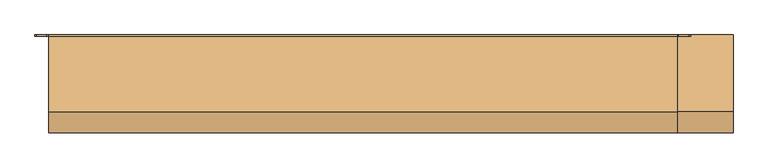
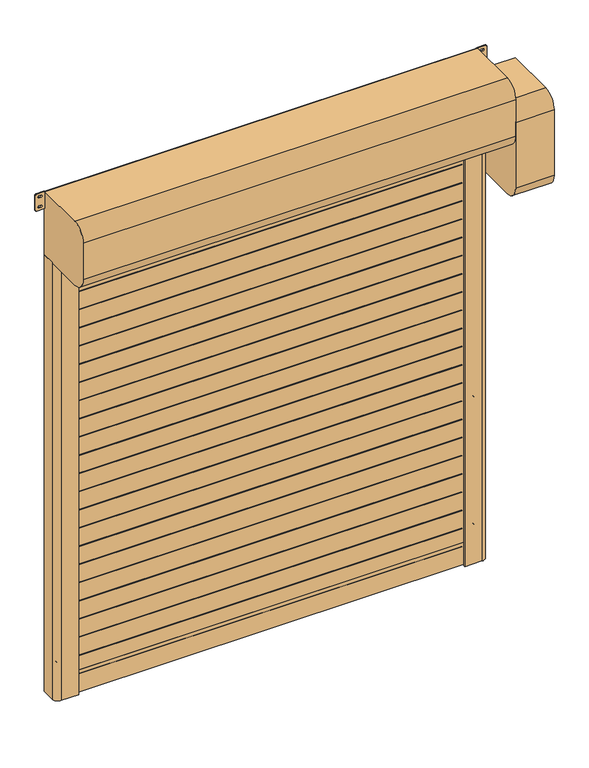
"""IFC4 building model written with IfcOpenShell, lengths in millimetres: door geometry, DO_WPB_Dynamicroll Frigo_Air_BMP : Dynamicroll Frigo1."""

from ifc_helpers import new_model, si_unit, point, frame, frame_2d, origin, origin_with_axes, place, context, project, spatial, polyline, circle_curve, trimmed, segment, composite_curve, outline, extrude, source, transform, mapped, element, save


def door_a66aba2e(model_context):
    return source(origin(), model_context, "Body", "SweptSolid", [
        extrude(outline(polyline([(-1000.0, -81.5), (-1000.0, -59.5), (1000.0, -59.5), (1000.0, -81.5), (-1000.0, -81.5)])), frame((0.0, 0.0, 2599.0), z_axis=(0.0, 0.0, 1.0), x_axis=(1.0, 0.0, 0.0)), (0.0, 0.0, 1.0), 2.0),
        extrude(outline(polyline([(-1000.0, -81.5), (-1000.0, -59.5), (1000.0, -59.5), (1000.0, -81.5), (-1000.0, -81.5)])), frame((0.0, 0.0, 2499.0), z_axis=(0.0, 0.0, 1.0), x_axis=(1.0, 0.0, 0.0)), (0.0, 0.0, 1.0), 2.0),
        extrude(outline(polyline([(-1000.0, -81.5), (-1000.0, -59.5), (1000.0, -59.5), (1000.0, -81.5), (-1000.0, -81.5)])), frame((0.0, 0.0, 2399.0), z_axis=(0.0, 0.0, 1.0), x_axis=(1.0, 0.0, 0.0)), (0.0, 0.0, 1.0), 2.0),
        extrude(outline(polyline([(-1000.0, -81.5), (-1000.0, -59.5), (1000.0, -59.5), (1000.0, -81.5), (-1000.0, -81.5)])), frame((0.0, 0.0, 2299.0), z_axis=(0.0, 0.0, 1.0), x_axis=(1.0, 0.0, 0.0)), (0.0, 0.0, 1.0), 2.0),
        extrude(outline(polyline([(-1000.0, -81.5), (-1000.0, -59.5), (1000.0, -59.5), (1000.0, -81.5), (-1000.0, -81.5)])), frame((0.0, 0.0, 2199.0), z_axis=(0.0, 0.0, 1.0), x_axis=(1.0, 0.0, 0.0)), (0.0, 0.0, 1.0), 2.0),
        extrude(outline(polyline([(-1000.0, -81.5), (-1000.0, -59.5), (1000.0, -59.5), (1000.0, -81.5), (-1000.0, -81.5)])), frame((0.0, 0.0, 2099.0), z_axis=(0.0, 0.0, 1.0), x_axis=(1.0, 0.0, 0.0)), (0.0, 0.0, 1.0), 2.0),
        extrude(outline(polyline([(-1000.0, -81.5), (-1000.0, -59.5), (1000.0, -59.5), (1000.0, -81.5), (-1000.0, -81.5)])), frame((0.0, 0.0, 1999.0), z_axis=(0.0, 0.0, 1.0), x_axis=(1.0, 0.0, 0.0)), (0.0, 0.0, 1.0), 2.0),
        extrude(outline(polyline([(-1000.0, -81.5), (-1000.0, -59.5), (1000.0, -59.5), (1000.0, -81.5), (-1000.0, -81.5)])), frame((0.0, 0.0, 1899.0), z_axis=(0.0, 0.0, 1.0), x_axis=(1.0, 0.0, 0.0)), (0.0, 0.0, 1.0), 2.0),
        extrude(outline(polyline([(-1000.0, -81.5), (-1000.0, -59.5), (1000.0, -59.5), (1000.0, -81.5), (-1000.0, -81.5)])), frame((0.0, 0.0, 1799.0), z_axis=(0.0, 0.0, 1.0), x_axis=(1.0, 0.0, 0.0)), (0.0, 0.0, 1.0), 2.0),
        extrude(outline(polyline([(-1000.0, -81.5), (-1000.0, -59.5), (1000.0, -59.5), (1000.0, -81.5), (-1000.0, -81.5)])), frame((0.0, 0.0, 1699.0), z_axis=(0.0, 0.0, 1.0), x_axis=(1.0, 0.0, 0.0)), (0.0, 0.0, 1.0), 2.0),
        extrude(outline(polyline([(-1000.0, -81.5), (-1000.0, -59.5), (1000.0, -59.5), (1000.0, -81.5), (-1000.0, -81.5)])), frame((0.0, 0.0, 1599.0), z_axis=(0.0, 0.0, 1.0), x_axis=(1.0, 0.0, 0.0)), (0.0, 0.0, 1.0), 2.0),
        extrude(outline(polyline([(-1000.0, -81.5), (-1000.0, -59.5), (1000.0, -59.5), (1000.0, -81.5), (-1000.0, -81.5)])), frame((0.0, 0.0, 1499.0), z_axis=(0.0, 0.0, 1.0), x_axis=(1.0, 0.0, 0.0)), (0.0, 0.0, 1.0), 2.0),
        extrude(outline(polyline([(-1000.0, -81.5), (-1000.0, -59.5), (1000.0, -59.5), (1000.0, -81.5), (-1000.0, -81.5)])), frame((0.0, 0.0, 1399.0), z_axis=(0.0, 0.0, 1.0), x_axis=(1.0, 0.0, 0.0)), (0.0, 0.0, 1.0), 2.0),
        extrude(outline(polyline([(-1000.0, -81.5), (-1000.0, -59.5), (1000.0, -59.5), (1000.0, -81.5), (-1000.0, -81.5)])), frame((0.0, 0.0, 1299.0), z_axis=(0.0, 0.0, 1.0), x_axis=(1.0, 0.0, 0.0)), (0.0, 0.0, 1.0), 2.0),
        extrude(outline(polyline([(-1000.0, -81.5), (-1000.0, -59.5), (1000.0, -59.5), (1000.0, -81.5), (-1000.0, -81.5)])), frame((0.0, 0.0, 1199.0), z_axis=(0.0, 0.0, 1.0), x_axis=(1.0, 0.0, 0.0)), (0.0, 0.0, 1.0), 2.0),
        extrude(outline(polyline([(-1000.0, -81.5), (-1000.0, -59.5), (1000.0, -59.5), (1000.0, -81.5), (-1000.0, -81.5)])), frame((0.0, 0.0, 1099.0), z_axis=(0.0, 0.0, 1.0), x_axis=(1.0, 0.0, 0.0)), (0.0, 0.0, 1.0), 2.0),
        extrude(outline(polyline([(-1000.0, -81.5), (-1000.0, -59.5), (1000.0, -59.5), (1000.0, -81.5), (-1000.0, -81.5)])), frame((0.0, 0.0, 999.0), z_axis=(0.0, 0.0, 1.0), x_axis=(1.0, 0.0, 0.0)), (0.0, 0.0, 1.0), 2.0),
        extrude(outline(polyline([(-1000.0, -81.5), (-1000.0, -59.5), (1000.0, -59.5), (1000.0, -81.5), (-1000.0, -81.5)])), frame((0.0, 0.0, 899.0), z_axis=(0.0, 0.0, 1.0), x_axis=(1.0, 0.0, 0.0)), (0.0, 0.0, 1.0), 2.0),
        extrude(outline(polyline([(-1000.0, -81.5), (-1000.0, -59.5), (1000.0, -59.5), (1000.0, -81.5), (-1000.0, -81.5)])), frame((0.0, 0.0, 799.0), z_axis=(0.0, 0.0, 1.0), x_axis=(1.0, 0.0, 0.0)), (0.0, 0.0, 1.0), 2.0),
        extrude(outline(polyline([(-1000.0, -81.5), (-1000.0, -59.5), (1000.0, -59.5), (1000.0, -81.5), (-1000.0, -81.5)])), frame((0.0, 0.0, 699.0), z_axis=(0.0, 0.0, 1.0), x_axis=(1.0, 0.0, 0.0)), (0.0, 0.0, 1.0), 2.0),
        extrude(outline(polyline([(-1000.0, -81.5), (-1000.0, -59.5), (1000.0, -59.5), (1000.0, -81.5), (-1000.0, -81.5)])), frame((0.0, 0.0, 599.0), z_axis=(0.0, 0.0, 1.0), x_axis=(1.0, 0.0, 0.0)), (0.0, 0.0, 1.0), 2.0),
        extrude(outline(polyline([(-1000.0, -81.5), (-1000.0, -59.5), (1000.0, -59.5), (1000.0, -81.5), (-1000.0, -81.5)])), frame((0.0, 0.0, 499.0), z_axis=(0.0, 0.0, 1.0), x_axis=(1.0, 0.0, 0.0)), (0.0, 0.0, 1.0), 2.0),
        extrude(outline(polyline([(-1000.0, -81.5), (-1000.0, -59.5), (1000.0, -59.5), (1000.0, -81.5), (-1000.0, -81.5)])), frame((0.0, 0.0, 399.0), z_axis=(0.0, 0.0, 1.0), x_axis=(1.0, 0.0, 0.0)), (0.0, 0.0, 1.0), 2.0),
        extrude(outline(polyline([(-1000.0, -81.5), (-1000.0, -59.5), (1000.0, -59.5), (1000.0, -81.5), (-1000.0, -81.5)])), frame((0.0, 0.0, 299.0), z_axis=(0.0, 0.0, 1.0), x_axis=(1.0, 0.0, 0.0)), (0.0, 0.0, 1.0), 2.0),
        extrude(outline(polyline([(-1000.0, -81.5), (-1000.0, -59.5), (1000.0, -59.5), (1000.0, -81.5), (-1000.0, -81.5)])), frame((0.0, 0.0, 199.0), z_axis=(0.0, 0.0, 1.0), x_axis=(1.0, 0.0, 0.0)), (0.0, 0.0, 1.0), 2.0),
        extrude(outline(polyline([(-1000.0, -81.5), (-1000.0, -59.5), (1000.0, -59.5), (1000.0, -81.5), (-1000.0, -81.5)])), frame((0.0, 0.0, 99.0), z_axis=(0.0, 0.0, 1.0), x_axis=(1.0, 0.0, 0.0)), (0.0, 0.0, 1.0), 2.0),
        extrude(outline(composite_curve([segment(trimmed(circle_curve(frame_2d((1550.0, 1076.0)), 6.0), [point((1556.0, 1076.0))], [point((1544.0, 1076.0))], False, "CARTESIAN"), True, "CONTINUOUS"), segment(polyline([(1544.0, 1076.0), (1544.0, 1094.0)]), True, "CONTINUOUS"), segment(trimmed(circle_curve(frame_2d((1550.0, 1094.0)), 6.0), [point((1544.0, 1094.0))], [point((1556.0, 1094.0))], False, "CARTESIAN"), True, "CONTINUOUS"), segment(polyline([(1556.0, 1094.0), (1556.0, 1076.0)]), True, "CONTINUOUS")], self_intersect=False)), frame((0.0, -20.0, 0.0), z_axis=(0.0, 1.0, 0.0), x_axis=(0.0, 0.0, 1.0)), (0.0, 0.0, 1.0), 20.0),
        extrude(outline(composite_curve([segment(trimmed(circle_curve(frame_2d((850.0, 1076.0)), 6.0), [point((856.0, 1076.0))], [point((844.0, 1076.0))], False, "CARTESIAN"), True, "CONTINUOUS"), segment(polyline([(844.0, 1076.0), (844.0, 1094.0)]), True, "CONTINUOUS"), segment(trimmed(circle_curve(frame_2d((850.0, 1094.0)), 6.0), [point((844.0, 1094.0))], [point((856.0, 1094.0))], False, "CARTESIAN"), True, "CONTINUOUS"), segment(polyline([(856.0, 1094.0), (856.0, 1076.0)]), True, "CONTINUOUS")], self_intersect=False)), frame((0.0, -20.0, 0.0), z_axis=(0.0, 1.0, 0.0), x_axis=(0.0, 0.0, 1.0)), (0.0, 0.0, 1.0), 20.0),
        extrude(outline(composite_curve([segment(trimmed(circle_curve(frame_2d((2250.0, 1076.0)), 6.0), [point((2256.0, 1076.0))], [point((2244.0, 1076.0))], False, "CARTESIAN"), True, "CONTINUOUS"), segment(polyline([(2244.0, 1076.0), (2244.0, 1094.0)]), True, "CONTINUOUS"), segment(trimmed(circle_curve(frame_2d((2250.0, 1094.0)), 6.0), [point((2244.0, 1094.0))], [point((2256.0, 1094.0))], False, "CARTESIAN"), True, "CONTINUOUS"), segment(polyline([(2256.0, 1094.0), (2256.0, 1076.0)]), True, "CONTINUOUS")], self_intersect=False)), frame((0.0, -20.0, 0.0), z_axis=(0.0, 1.0, 0.0), x_axis=(0.0, 0.0, 1.0)), (0.0, 0.0, 1.0), 20.0),
        extrude(outline(composite_curve([segment(trimmed(circle_curve(frame_2d((150.0, 1076.0)), 6.0), [point((156.0, 1076.0))], [point((144.0, 1076.0))], False, "CARTESIAN"), True, "CONTINUOUS"), segment(polyline([(144.0, 1076.0), (144.0, 1094.0)]), True, "CONTINUOUS"), segment(trimmed(circle_curve(frame_2d((150.0, 1094.0)), 6.0), [point((144.0, 1094.0))], [point((156.0, 1094.0))], False, "CARTESIAN"), True, "CONTINUOUS"), segment(polyline([(156.0, 1094.0), (156.0, 1076.0)]), True, "CONTINUOUS")], self_intersect=False)), frame((0.0, -20.0, 0.0), z_axis=(0.0, 1.0, 0.0), x_axis=(0.0, 0.0, 1.0)), (0.0, 0.0, 1.0), 20.0),
        extrude(outline(composite_curve([segment(polyline([(1556.0, -1076.0), (1556.0, -1094.0)]), True, "CONTINUOUS"), segment(trimmed(circle_curve(frame_2d((1550.0, -1094.0)), 6.0), [point((1556.0, -1094.0))], [point((1544.0, -1094.0))], False, "CARTESIAN"), True, "CONTINUOUS"), segment(polyline([(1544.0, -1094.0), (1544.0, -1076.0)]), True, "CONTINUOUS"), segment(trimmed(circle_curve(frame_2d((1550.0, -1076.0)), 6.0), [point((1544.0, -1076.0))], [point((1556.0, -1076.0))], False, "CARTESIAN"), True, "CONTINUOUS")], self_intersect=False)), frame((0.0, -20.0, 0.0), z_axis=(0.0, 1.0, 0.0), x_axis=(0.0, 0.0, 1.0)), (0.0, 0.0, 1.0), 20.0),
        extrude(outline(composite_curve([segment(polyline([(856.0, -1076.0), (856.0, -1094.0)]), True, "CONTINUOUS"), segment(trimmed(circle_curve(frame_2d((850.0, -1094.0)), 6.0), [point((856.0, -1094.0))], [point((844.0, -1094.0))], False, "CARTESIAN"), True, "CONTINUOUS"), segment(polyline([(844.0, -1094.0), (844.0, -1076.0)]), True, "CONTINUOUS"), segment(trimmed(circle_curve(frame_2d((850.0, -1076.0)), 6.0), [point((844.0, -1076.0))], [point((856.0, -1076.0))], False, "CARTESIAN"), True, "CONTINUOUS")], self_intersect=False)), frame((0.0, -20.0, 0.0), z_axis=(0.0, 1.0, 0.0), x_axis=(0.0, 0.0, 1.0)), (0.0, 0.0, 1.0), 20.0),
        extrude(outline(composite_curve([segment(polyline([(2256.0, -1076.0), (2256.0, -1094.0)]), True, "CONTINUOUS"), segment(trimmed(circle_curve(frame_2d((2250.0, -1094.0)), 6.0), [point((2256.0, -1094.0))], [point((2244.0, -1094.0))], False, "CARTESIAN"), True, "CONTINUOUS"), segment(polyline([(2244.0, -1094.0), (2244.0, -1076.0)]), True, "CONTINUOUS"), segment(trimmed(circle_curve(frame_2d((2250.0, -1076.0)), 6.0), [point((2244.0, -1076.0))], [point((2256.0, -1076.0))], False, "CARTESIAN"), True, "CONTINUOUS")], self_intersect=False)), frame((0.0, -20.0, 0.0), z_axis=(0.0, 1.0, 0.0), x_axis=(0.0, 0.0, 1.0)), (0.0, 0.0, 1.0), 20.0),
        extrude(outline(composite_curve([segment(polyline([(156.0, -1076.0), (156.0, -1094.0)]), True, "CONTINUOUS"), segment(trimmed(circle_curve(frame_2d((150.0, -1094.0)), 6.0), [point((156.0, -1094.0))], [point((144.0, -1094.0))], False, "CARTESIAN"), True, "CONTINUOUS"), segment(polyline([(144.0, -1094.0), (144.0, -1076.0)]), True, "CONTINUOUS"), segment(trimmed(circle_curve(frame_2d((150.0, -1076.0)), 6.0), [point((144.0, -1076.0))], [point((156.0, -1076.0))], False, "CARTESIAN"), True, "CONTINUOUS")], self_intersect=False)), frame((0.0, -20.0, 0.0), z_axis=(0.0, 1.0, 0.0), x_axis=(0.0, 0.0, 1.0)), (0.0, 0.0, 1.0), 20.0),
        extrude(outline(polyline([(-1012.0, -61.5), (1012.0, -61.5), (1012.0, -79.5), (-1012.0, -79.5), (-1012.0, -61.5)])), frame((0.0, 0.0, 120.0), z_axis=(0.0, 0.0, 1.0), x_axis=(1.0, 0.0, 0.0)), (0.0, 0.0, 1.0), 2455.0),
        extrude(outline(polyline([(-1012.0, -59.5), (1012.0, -59.5), (1012.0, -81.5), (-1012.0, -81.5), (-1012.0, -59.5)])), origin_with_axes(), (0.0, 0.0, 1.0), 120.0),
        extrude(outline(composite_curve([segment(polyline([(-1125.0, 0.0), (-1015.0, 0.0), (-1015.0, -49.2857143), (-1035.0, -55.0), (-1000.0, -55.0), (-1000.0, -61.5), (-1020.0, -61.5), (-1020.0, -68.5), (-1000.0, -68.5), (-1000.0, -75.0), (-1035.0, -75.0), (-1035.0, -90.0), (-1005.0, -90.0), (-1005.0, -100.0), (-1095.0, -100.0)]), True, "CONTINUOUS"), segment(trimmed(circle_curve(frame_2d((-1095.0, -70.0)), 30.0), [point((-1095.0, -100.0))], [point((-1125.0, -70.0))], False, "CARTESIAN"), True, "CONTINUOUS"), segment(polyline([(-1125.0, -70.0), (-1125.0, 0.0)]), True, "CONTINUOUS")], self_intersect=False)), origin_with_axes(), (0.0, 0.0, 1.0), 2400.0),
        extrude(outline(composite_curve([segment(polyline([(1125.0, 0.0), (1125.0, -70.0)]), True, "CONTINUOUS"), segment(trimmed(circle_curve(frame_2d((1095.0, -70.0)), 30.0), [point((1125.0, -70.0))], [point((1095.0, -100.0))], False, "CARTESIAN"), True, "CONTINUOUS"), segment(polyline([(1095.0, -100.0), (1005.0, -100.0), (1005.0, -90.0), (1035.0, -90.0), (1035.0, -75.0), (1000.0, -75.0), (1000.0, -68.5), (1020.0, -68.5), (1020.0, -61.5), (1000.0, -61.5), (1000.0, -55.0), (1035.0, -55.0), (1015.0, -49.2857143), (1015.0, 0.0), (1125.0, 0.0)]), True, "CONTINUOUS")], self_intersect=False)), origin_with_axes(), (0.0, 0.0, 1.0), 2400.0),
        extrude(outline(composite_curve([segment(trimmed(circle_curve(frame_2d((-5.0, 2405.0)), 5.0), [point((0.0, 2405.0))], [point((-5.0, 2400.0))], False, "CARTESIAN"), True, "CONTINUOUS"), segment(polyline([(-5.0, 2400.0), (-275.0, 2400.0)]), True, "CONTINUOUS"), segment(trimmed(circle_curve(frame_2d((-275.0, 2475.0)), 75.0), [point((-275.0, 2400.0))], [point((-350.0, 2475.0))], False, "CARTESIAN"), True, "CONTINUOUS"), segment(polyline([(-350.0, 2475.0), (-350.0, 2675.0)]), True, "CONTINUOUS"), segment(trimmed(circle_curve(frame_2d((-275.0, 2675.0)), 75.0), [point((-350.0, 2675.0))], [point((-275.0, 2750.0))], False, "CARTESIAN"), True, "CONTINUOUS"), segment(polyline([(-275.0, 2750.0), (-5.0, 2750.0)]), True, "CONTINUOUS"), segment(trimmed(circle_curve(frame_2d((-5.0, 2745.0)), 5.0), [point((-5.0, 2750.0))], [point((0.0, 2745.0))], False, "CARTESIAN"), True, "CONTINUOUS"), segment(polyline([(0.0, 2745.0), (0.0, 2405.0)]), True, "CONTINUOUS")], self_intersect=False)), frame((-1125.0, 0.0, 0.0), z_axis=(1.0, 0.0, 0.0), x_axis=(0.0, 1.0, 0.0)), (0.0, 0.0, 1.0), 2250.0),
        extrude(outline(composite_curve([segment(trimmed(circle_curve(frame_2d((2663.75, 1130.75)), 5.75), [point((2663.75, 1125.0))], [point((2658.0, 1130.75))], False, "CARTESIAN"), True, "CONTINUOUS"), segment(polyline([(2658.0, 1130.75), (2658.0, 1168.25)]), True, "CONTINUOUS"), segment(trimmed(circle_curve(frame_2d((2663.75, 1168.25)), 5.75), [point((2658.0, 1168.25))], [point((2663.75, 1174.0))], False, "CARTESIAN"), True, "CONTINUOUS"), segment(polyline([(2663.75, 1174.0), (2744.25, 1174.0)]), True, "CONTINUOUS"), segment(trimmed(circle_curve(frame_2d((2744.25, 1168.25)), 5.75), [point((2744.25, 1174.0))], [point((2750.0, 1168.25))], False, "CARTESIAN"), True, "CONTINUOUS"), segment(polyline([(2750.0, 1168.25), (2750.0, 1130.75)]), True, "CONTINUOUS"), segment(trimmed(circle_curve(frame_2d((2744.25, 1130.75)), 5.75), [point((2750.0, 1130.75))], [point((2744.25, 1125.0))], False, "CARTESIAN"), True, "CONTINUOUS"), segment(polyline([(2744.25, 1125.0), (2663.75, 1125.0)]), True, "CONTINUOUS")], self_intersect=False), holes=[composite_curve([segment(trimmed(circle_curve(frame_2d((2731.5, 1153.75)), 5.75), [point((2737.25, 1153.75))], [point((2725.75, 1153.75))], True, "CARTESIAN"), True, "CONTINUOUS"), segment(polyline([(2725.75, 1153.75), (2725.75, 1145.25)]), True, "CONTINUOUS"), segment(trimmed(circle_curve(frame_2d((2731.5, 1145.25)), 5.75), [point((2725.75, 1145.25))], [point((2737.25, 1145.25))], True, "CARTESIAN"), True, "CONTINUOUS"), segment(polyline([(2737.25, 1145.25), (2737.25, 1153.75)]), True, "CONTINUOUS")], self_intersect=False), composite_curve([segment(trimmed(circle_curve(frame_2d((2676.5, 1153.75)), 5.75), [point((2682.25, 1153.75))], [point((2670.75, 1153.75))], True, "CARTESIAN"), True, "CONTINUOUS"), segment(polyline([(2670.75, 1153.75), (2670.75, 1145.25)]), True, "CONTINUOUS"), segment(trimmed(circle_curve(frame_2d((2676.5, 1145.25)), 5.75), [point((2670.75, 1145.25))], [point((2682.25, 1145.25))], True, "CARTESIAN"), True, "CONTINUOUS"), segment(polyline([(2682.25, 1145.25), (2682.25, 1153.75)]), True, "CONTINUOUS")], self_intersect=False)]), frame((0.0, -5.0, 0.0), z_axis=(0.0, 1.0, 0.0), x_axis=(0.0, 0.0, 1.0)), (0.0, 0.0, 1.0), 5.0),
        extrude(outline(composite_curve([segment(trimmed(circle_curve(frame_2d((2663.75, -1168.25)), 5.75), [point((2663.75, -1174.0))], [point((2658.0, -1168.25))], False, "CARTESIAN"), True, "CONTINUOUS"), segment(polyline([(2658.0, -1168.25), (2658.0, -1130.75)]), True, "CONTINUOUS"), segment(trimmed(circle_curve(frame_2d((2663.75, -1130.75)), 5.75), [point((2658.0, -1130.75))], [point((2663.75, -1125.0))], False, "CARTESIAN"), True, "CONTINUOUS"), segment(polyline([(2663.75, -1125.0), (2744.25, -1125.0)]), True, "CONTINUOUS"), segment(trimmed(circle_curve(frame_2d((2744.25, -1130.75)), 5.75), [point((2744.25, -1125.0))], [point((2750.0, -1130.75))], False, "CARTESIAN"), True, "CONTINUOUS"), segment(polyline([(2750.0, -1130.75), (2750.0, -1168.25)]), True, "CONTINUOUS"), segment(trimmed(circle_curve(frame_2d((2744.25, -1168.25)), 5.75), [point((2750.0, -1168.25))], [point((2744.25, -1174.0))], False, "CARTESIAN"), True, "CONTINUOUS"), segment(polyline([(2744.25, -1174.0), (2663.75, -1174.0)]), True, "CONTINUOUS")], self_intersect=False), holes=[composite_curve([segment(trimmed(circle_curve(frame_2d((2731.5, -1145.25)), 5.75), [point((2737.25, -1145.25))], [point((2725.75, -1145.25))], True, "CARTESIAN"), True, "CONTINUOUS"), segment(polyline([(2725.75, -1145.25), (2725.75, -1153.75)]), True, "CONTINUOUS"), segment(trimmed(circle_curve(frame_2d((2731.5, -1153.75)), 5.75), [point((2725.75, -1153.75))], [point((2737.25, -1153.75))], True, "CARTESIAN"), True, "CONTINUOUS"), segment(polyline([(2737.25, -1153.75), (2737.25, -1145.25)]), True, "CONTINUOUS")], self_intersect=False), composite_curve([segment(trimmed(circle_curve(frame_2d((2676.5, -1145.25)), 5.75), [point((2682.25, -1145.25))], [point((2670.75, -1145.25))], True, "CARTESIAN"), True, "CONTINUOUS"), segment(polyline([(2670.75, -1145.25), (2670.75, -1153.75)]), True, "CONTINUOUS"), segment(trimmed(circle_curve(frame_2d((2676.5, -1153.75)), 5.75), [point((2670.75, -1153.75))], [point((2682.25, -1153.75))], True, "CARTESIAN"), True, "CONTINUOUS"), segment(polyline([(2682.25, -1153.75), (2682.25, -1145.25)]), True, "CONTINUOUS")], self_intersect=False)]), frame((0.0, -5.0, 0.0), z_axis=(0.0, 1.0, 0.0), x_axis=(0.0, 0.0, 1.0)), (0.0, 0.0, 1.0), 5.0),
        extrude(outline(composite_curve([segment(polyline([(0.0, 2625.0), (0.0, 2115.0), (-275.0, 2115.0)]), True, "CONTINUOUS"), segment(trimmed(circle_curve(frame_2d((-275.0, 2190.0)), 75.0), [point((-275.0, 2115.0))], [point((-350.0, 2190.0))], False, "CARTESIAN"), True, "CONTINUOUS"), segment(polyline([(-350.0, 2190.0), (-350.0, 2550.0)]), True, "CONTINUOUS"), segment(trimmed(circle_curve(frame_2d((-275.0, 2550.0)), 75.0), [point((-350.0, 2550.0))], [point((-275.0, 2625.0))], False, "CARTESIAN"), True, "CONTINUOUS"), segment(polyline([(-275.0, 2625.0), (0.0, 2625.0)]), True, "CONTINUOUS")], self_intersect=False)), frame((1125.0, 0.0, 0.0), z_axis=(1.0, 0.0, 0.0), x_axis=(0.0, 1.0, 0.0)), (0.0, 0.0, 1.0), 200.0),
    ])


if __name__ == "__main__":
    model = new_model("IFC4")
    model_context = context("Model", 3, world=origin())
    ifc_project = project(units=[si_unit("LENGTHUNIT", "METRE", prefix="MILLI")], contexts=[model_context])
    site = spatial("IfcSite", under=ifc_project)
    building = spatial("IfcBuilding", under=site)
    placement = place(None, origin())
    door_shape = door_a66aba2e(model_context)
    element("IfcDoor", 1, ObjectType="DO_WPB_Dynamicroll Frigo_Air_BMP : Dynamicroll Frigo1", at=placement, inside=building, context=model_context, shape_type="MappedRepresentation", body=[
        mapped(door_shape, transform((0.0, 0.0, 0.0), x_axis=(1.0, 0.0, 0.0), y_axis=(0.0, 1.0, 0.0), z_axis=(0.0, 0.0, 1.0))),
    ])
    save(model, "model.ifc")
